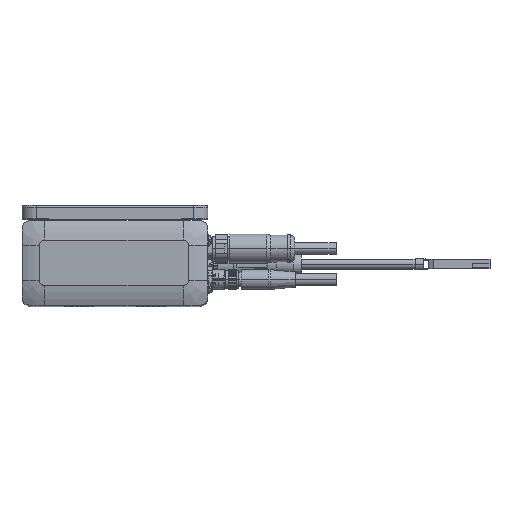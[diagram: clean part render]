
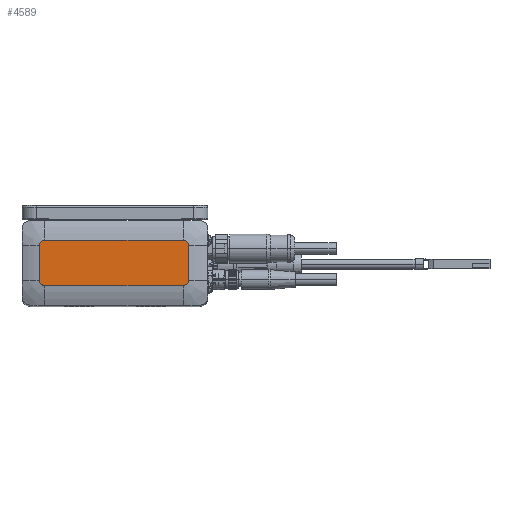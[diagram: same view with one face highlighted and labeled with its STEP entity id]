
A CAD part, top view. The second image highlights one B-rep face of the part: STEP entity #4589.
In plain terms, the highlighted planar face has unit normal (0, 0, 1).
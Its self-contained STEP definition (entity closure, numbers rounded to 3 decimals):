
#2189=DIRECTION('',(1.,0.,0.));
#2190=VECTOR('',#2189,66.986);
#2191=CARTESIAN_POINT('',(-33.986,11.016,158.));
#2192=LINE('',#2191,#2190);
#2196=CARTESIAN_POINT('',(33.,8.5,158.));
#2197=DIRECTION('',(0.,0.,-1.));
#2198=DIRECTION('',(0.,1.,0.));
#2199=AXIS2_PLACEMENT_3D('',#2196,#2197,#2198);
#2204=DIRECTION('',(0.,-1.,0.));
#2205=VECTOR('',#2204,17.);
#2206=CARTESIAN_POINT('',(35.516,8.5,158.));
#2207=LINE('',#2206,#2205);
#2211=CARTESIAN_POINT('',(33.,-8.5,158.));
#2212=DIRECTION('',(0.,0.,-1.));
#2213=DIRECTION('',(1.,0.,0.));
#2214=AXIS2_PLACEMENT_3D('',#2211,#2212,#2213);
#2219=DIRECTION('',(-1.,0.,0.));
#2220=VECTOR('',#2219,66.986);
#2221=CARTESIAN_POINT('',(33.,-11.016,158.));
#2222=LINE('',#2221,#2220);
#2226=CARTESIAN_POINT('',(-33.986,-8.5,158.));
#2227=DIRECTION('',(0.,0.,-1.));
#2228=DIRECTION('',(0.,-1.,0.));
#2229=AXIS2_PLACEMENT_3D('',#2226,#2227,#2228);
#2234=DIRECTION('',(0.,1.,0.));
#2235=VECTOR('',#2234,17.);
#2236=CARTESIAN_POINT('',(-36.501,-8.5,158.));
#2237=LINE('',#2236,#2235);
#2241=CARTESIAN_POINT('',(-33.986,8.5,158.));
#2242=DIRECTION('',(0.,0.,-1.));
#2243=DIRECTION('',(-1.,0.,0.));
#2244=AXIS2_PLACEMENT_3D('',#2241,#2242,#2243);
#3913=CARTESIAN_POINT('',(-33.986,11.016,158.));
#3914=CARTESIAN_POINT('',(33.,11.016,158.));
#3915=VERTEX_POINT('',#3913);
#3916=VERTEX_POINT('',#3914);
#3917=CARTESIAN_POINT('',(35.516,8.5,158.));
#3918=VERTEX_POINT('',#3917);
#3919=CARTESIAN_POINT('',(35.516,-8.5,158.));
#3920=VERTEX_POINT('',#3919);
#3921=CARTESIAN_POINT('',(33.,-11.016,158.));
#3922=VERTEX_POINT('',#3921);
#3923=CARTESIAN_POINT('',(-33.986,-11.016,158.));
#3924=VERTEX_POINT('',#3923);
#3925=CARTESIAN_POINT('',(-36.501,-8.5,158.));
#3926=VERTEX_POINT('',#3925);
#3927=CARTESIAN_POINT('',(-36.501,8.5,158.));
#3928=VERTEX_POINT('',#3927);
#4568=CARTESIAN_POINT('',(0.,0.,158.));
#4569=DIRECTION('',(0.,0.,1.));
#4570=DIRECTION('',(1.,0.,0.));
#4571=AXIS2_PLACEMENT_3D('',#4568,#4569,#4570);
#4572=PLANE('',#4571);
#4574=ORIENTED_EDGE('',*,*,#4573,.T.);
#4575=ORIENTED_EDGE('',*,*,#4546,.T.);
#4576=ORIENTED_EDGE('',*,*,#4559,.T.);
#4578=ORIENTED_EDGE('',*,*,#4577,.T.);
#4580=ORIENTED_EDGE('',*,*,#4579,.T.);
#4582=ORIENTED_EDGE('',*,*,#4581,.T.);
#4584=ORIENTED_EDGE('',*,*,#4583,.T.);
#4586=ORIENTED_EDGE('',*,*,#4585,.T.);
#4587=EDGE_LOOP('',(#4574,#4575,#4576,#4578,#4580,#4582,#4584,#4586));
#4588=FACE_OUTER_BOUND('',#4587,.F.);
#2200=CIRCLE('',#2199,2.516);
#2215=CIRCLE('',#2214,2.516);
#2230=CIRCLE('',#2229,2.516);
#2245=CIRCLE('',#2244,2.516);
#4546=EDGE_CURVE('',#3916,#3918,#2200,.T.);
#4559=EDGE_CURVE('',#3918,#3920,#2207,.T.);
#4573=EDGE_CURVE('',#3915,#3916,#2192,.T.);
#4577=EDGE_CURVE('',#3920,#3922,#2215,.T.);
#4579=EDGE_CURVE('',#3922,#3924,#2222,.T.);
#4581=EDGE_CURVE('',#3924,#3926,#2230,.T.);
#4583=EDGE_CURVE('',#3926,#3928,#2237,.T.);
#4585=EDGE_CURVE('',#3928,#3915,#2245,.T.);
#4589=ADVANCED_FACE('',(#4588),#4572,.T.);
